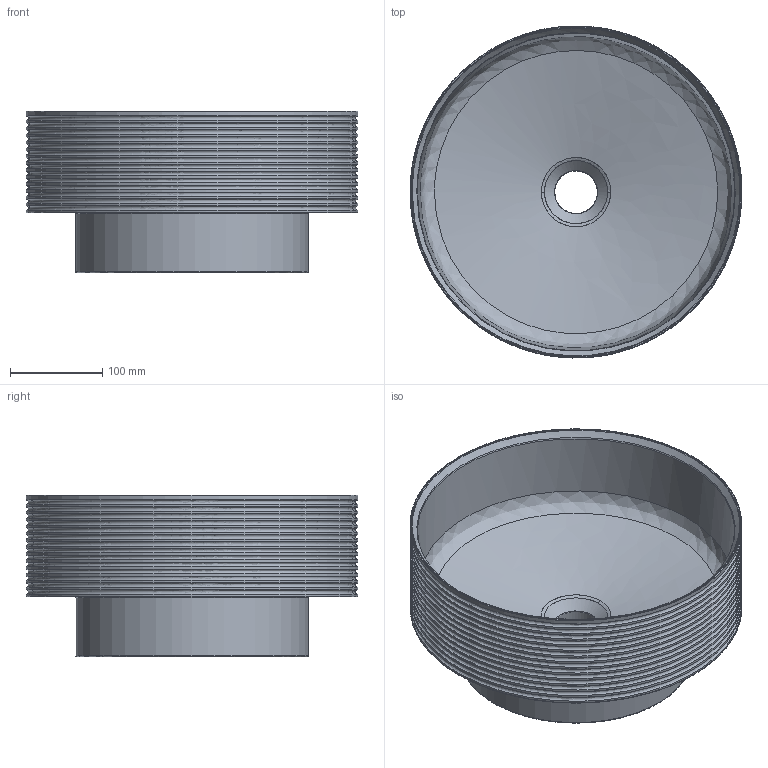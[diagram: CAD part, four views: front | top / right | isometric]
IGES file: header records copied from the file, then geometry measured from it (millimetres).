
Global section: file name: C:\Users\hp\Desktop\00621_Pap; native system: Rhinoceros ( Sep 10 2024 ); preprocessor: Trout Lake IGES 012 Sep 10 2024; date: 241016.082119; units: millimetre
Bounding box: 359.93 x 359.85 x 175 mm (x, y, z)
Surface area: 559592.1 mm2 (no closed solid volume)
Topology: 0 solids, 0 shells, 57 faces, 177 edges, 122 vertices
Faces by surface type: bspline 57
